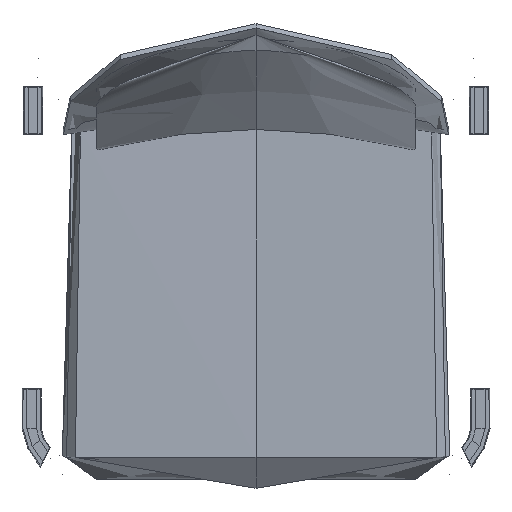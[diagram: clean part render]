
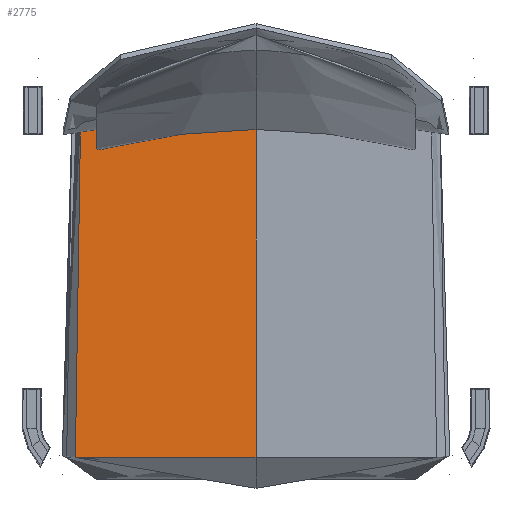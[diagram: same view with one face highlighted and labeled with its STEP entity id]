
A CAD part, top view. The second image highlights one B-rep face of the part: STEP entity #2775.
In plain terms, the highlighted free-form (B-spline) face has degree [3, 3] with [4, 6] control points.
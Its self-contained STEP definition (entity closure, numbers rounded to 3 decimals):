
#544=(
BOUNDED_CURVE()
B_SPLINE_CURVE(3,(#60279,#60280,#60281,#60282,#60283,#60284,#60285,#60286,
#60287,#60288,#60289,#60290,#60291,#60292,#60293,#60294,#60295,#60296,#60297,
#60298),.UNSPECIFIED.,.F.,.F.)
B_SPLINE_CURVE_WITH_KNOTS((4,3,3,1,1,1,1,1,1,1,3,4),(-0.392,
-0.39,6.301,10.816,15.904,21.689,
28.102,34.77,41.018,46.433,51.07,
56.446),.UNSPECIFIED.)
CURVE()
GEOMETRIC_REPRESENTATION_ITEM()
RATIONAL_B_SPLINE_CURVE((1.,1.,1.,1.,1.,1.,1.,1.,1.,1.,1.,
1.,1.,1.,1.,1.,1.,1.,1.,1.))
REPRESENTATION_ITEM('')
);
#2775=ADVANCED_FACE('',(#3886),#20597,.T.);
#3886=FACE_OUTER_BOUND('',#5445,.T.);
#5445=EDGE_LOOP('',(#11642,#11643,#11644,#11645,#11646));
#11642=ORIENTED_EDGE('',*,*,#15107,.T.);
#11643=ORIENTED_EDGE('',*,*,#15095,.T.);
#11644=ORIENTED_EDGE('',*,*,#15096,.F.);
#11645=ORIENTED_EDGE('',*,*,#15106,.T.);
#11646=ORIENTED_EDGE('',*,*,#15114,.F.);
#15095=EDGE_CURVE('',#20427,#20429,#18341,.T.);
#15096=EDGE_CURVE('',#20428,#20429,#18342,.T.);
#15106=EDGE_CURVE('',#20428,#20435,#18352,.T.);
#15107=EDGE_CURVE('',#20437,#20427,#18353,.T.);
#15114=EDGE_CURVE('',#20437,#20435,#544,.T.);
#18341=B_SPLINE_CURVE_WITH_KNOTS('',3,(#60043,#60044,#60045,#60046),
 .UNSPECIFIED.,.F.,.F.,(4,4),(0.,208.2),.UNSPECIFIED.);
#18342=B_SPLINE_CURVE_WITH_KNOTS('',3,(#60047,#60048,#60049,#60050,#60051,
#60052),.UNSPECIFIED.,.F.,.F.,(4,1,1,4),(-469.281,-336.575,
-192.091,-47.607),.UNSPECIFIED.);
#18352=B_SPLINE_CURVE_WITH_KNOTS('',3,(#60192,#60193,#60194,#60195),
 .UNSPECIFIED.,.F.,.F.,(4,4),(0.,169.177),.UNSPECIFIED.);
#18353=B_SPLINE_CURVE_WITH_KNOTS('',3,(#60196,#60197,#60198,#60199,#60200),
 .UNSPECIFIED.,.F.,.F.,(4,1,4),(235.672,614.063,616.504),
 .UNSPECIFIED.);
#20427=VERTEX_POINT('',#60013);
#20428=VERTEX_POINT('',#60014);
#20429=VERTEX_POINT('',#60015);
#20435=VERTEX_POINT('',#60021);
#20437=VERTEX_POINT('',#60023);
#20597=B_SPLINE_SURFACE_WITH_KNOTS('',3,3,((#58019,#58020,#58021,#58022,
#58023,#58024),(#58025,#58026,#58027,#58028,#58029,#58030),(#58031,#58032,
#58033,#58034,#58035,#58036),(#58037,#58038,#58039,#58040,#58041,#58042)),
 .UNSPECIFIED.,.F.,.F.,.F.,(4,4),(4,1,1,4),(0.,208.2),(47.607,
192.091,336.575,469.281),.UNSPECIFIED.);
#58019=CARTESIAN_POINT('',(-207.61,-200.8,475.081));
#58020=CARTESIAN_POINT('',(-206.89,-154.314,474.31));
#58021=CARTESIAN_POINT('',(-205.45,-61.344,472.768));
#58022=CARTESIAN_POINT('',(-203.349,74.323,470.518));
#58023=CARTESIAN_POINT('',(-201.968,163.504,469.038));
#58024=CARTESIAN_POINT('',(-201.307,206.2,468.33));
#58025=CARTESIAN_POINT('',(-138.406,-200.8,473.081));
#58026=CARTESIAN_POINT('',(-137.927,-164.428,472.478));
#58027=CARTESIAN_POINT('',(-136.967,-58.131,463.01));
#58028=CARTESIAN_POINT('',(-135.566,87.116,461.076));
#58029=CARTESIAN_POINT('',(-134.645,173.48,463.765));
#58030=CARTESIAN_POINT('',(-134.204,212.878,465.041));
#58031=CARTESIAN_POINT('',(-69.203,-200.8,472.081));
#58032=CARTESIAN_POINT('',(-68.963,-169.485,471.562));
#58033=CARTESIAN_POINT('',(-68.483,-56.525,458.131));
#58034=CARTESIAN_POINT('',(-67.783,93.513,456.355));
#58035=CARTESIAN_POINT('',(-67.323,178.468,461.129));
#58036=CARTESIAN_POINT('',(-67.102,216.217,463.396));
#58037=CARTESIAN_POINT('',(0.,-200.8,472.081));
#58038=CARTESIAN_POINT('',(0.,-169.485,471.562));
#58039=CARTESIAN_POINT('',(0.,-56.525,458.131));
#58040=CARTESIAN_POINT('',(0.,93.513,456.355));
#58041=CARTESIAN_POINT('',(0.,178.468,461.129));
#58042=CARTESIAN_POINT('',(0.,216.217,463.396));
#60013=CARTESIAN_POINT('',(-207.61,-200.8,475.081));
#60014=CARTESIAN_POINT('',(0.,216.217,463.396));
#60015=CARTESIAN_POINT('',(0.,-200.8,472.081));
#60021=CARTESIAN_POINT('',(-166.693,209.35,466.779));
#60023=CARTESIAN_POINT('',(-201.765,176.772,468.819));
#60043=CARTESIAN_POINT('',(-207.61,-200.8,475.081));
#60044=CARTESIAN_POINT('',(-138.406,-200.8,473.081));
#60045=CARTESIAN_POINT('',(-69.203,-200.8,472.081));
#60046=CARTESIAN_POINT('',(0.,-200.8,472.081));
#60047=CARTESIAN_POINT('',(0.,216.217,463.396));
#60048=CARTESIAN_POINT('',(0.,178.468,461.129));
#60049=CARTESIAN_POINT('',(0.,93.513,456.355));
#60050=CARTESIAN_POINT('',(0.,-56.525,458.131));
#60051=CARTESIAN_POINT('',(0.,-169.485,471.562));
#60052=CARTESIAN_POINT('',(0.,-200.8,472.081));
#60192=CARTESIAN_POINT('',(0.,216.217,463.396));
#60193=CARTESIAN_POINT('',(-55.652,216.219,463.396));
#60194=CARTESIAN_POINT('',(-111.239,213.917,464.528));
#60195=CARTESIAN_POINT('',(-166.693,209.35,466.779));
#60196=CARTESIAN_POINT('',(-201.765,176.772,468.819));
#60197=CARTESIAN_POINT('',(-203.697,51.693,470.897));
#60198=CARTESIAN_POINT('',(-205.651,-74.287,472.969));
#60199=CARTESIAN_POINT('',(-207.595,-199.785,475.083));
#60200=CARTESIAN_POINT('',(-207.61,-200.8,475.081));
#60279=CARTESIAN_POINT('',(-201.765,176.772,468.819));
#60280=CARTESIAN_POINT('',(-201.764,176.772,468.819));
#60281=CARTESIAN_POINT('',(-201.763,176.772,468.819));
#60282=CARTESIAN_POINT('',(-201.762,176.772,468.819));
#60283=CARTESIAN_POINT('',(-199.541,176.811,468.669));
#60284=CARTESIAN_POINT('',(-197.319,176.863,468.52));
#60285=CARTESIAN_POINT('',(-195.1,176.969,468.373));
#60286=CARTESIAN_POINT('',(-193.602,177.041,468.274));
#60287=CARTESIAN_POINT('',(-190.422,177.258,468.064));
#60288=CARTESIAN_POINT('',(-185.365,178.026,467.733));
#60289=CARTESIAN_POINT('',(-179.891,179.81,467.385));
#60290=CARTESIAN_POINT('',(-174.545,183.167,467.064));
#60291=CARTESIAN_POINT('',(-170.339,188.106,466.842));
#60292=CARTESIAN_POINT('',(-167.892,193.742,466.742));
#60293=CARTESIAN_POINT('',(-166.881,199.09,466.725));
#60294=CARTESIAN_POINT('',(-166.675,202.435,466.736));
#60295=CARTESIAN_POINT('',(-166.633,203.979,466.744));
#60296=CARTESIAN_POINT('',(-166.59,205.769,466.753));
#60297=CARTESIAN_POINT('',(-166.606,207.562,466.765));
#60298=CARTESIAN_POINT('',(-166.693,209.35,466.779));
